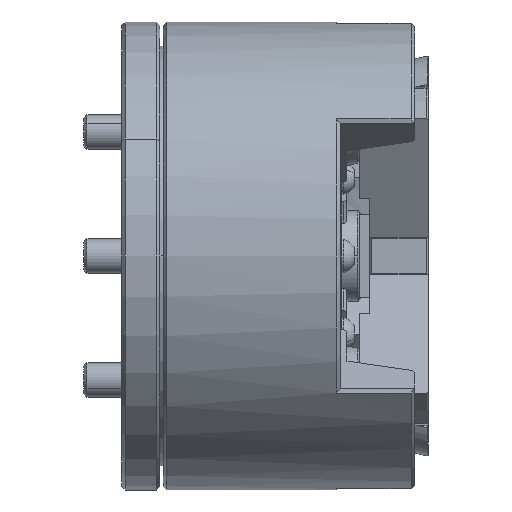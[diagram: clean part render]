
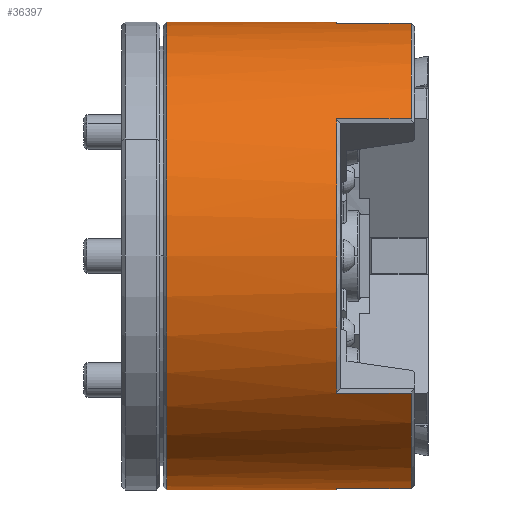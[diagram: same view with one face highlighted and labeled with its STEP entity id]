
A CAD part, front view. The second image highlights one B-rep face of the part: STEP entity #36397.
In plain terms, the highlighted cylindrical face has radius 67.5 mm (diameter 135 mm), a partial arc.
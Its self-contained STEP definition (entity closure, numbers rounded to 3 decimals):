
#98 = ORIENTED_EDGE ( 'NONE', *, *, #31223, .F. ) ;
#139 = CARTESIAN_POINT ( 'NONE',  ( 63.843, 0., -67.5 ) ) ;
#569 = VECTOR ( 'NONE', #21461, 1000. ) ;
#640 = CARTESIAN_POINT ( 'NONE',  ( -26.988, -1.243, -67.489 ) ) ;
#688 = AXIS2_PLACEMENT_3D ( 'NONE', #3417, #18610, #27140 ) ;
#1199 = CARTESIAN_POINT ( 'NONE',  ( -21.693, -0.735, -67.496 ) ) ;
#1232 = CARTESIAN_POINT ( 'NONE',  ( -0.478, -6.871, -67.149 ) ) ;
#1616 = B_SPLINE_CURVE_WITH_KNOTS ( 'NONE', 3,
 ( #15479, #12782, #15115, #640, #18165, #24196, #3361, #12610, #24381, #27639, #9715, #3923, #15670, #4101, #1199, #21456, #33260, #12969 ),
 .UNSPECIFIED., .F., .F.,
 ( 4, 2, 2, 2, 2, 2, 2, 2, 4 ),
 ( 0., 0.002, 0.004, 0.005, 0.006, 0.007, 0.008, 0.008, 0.01 ),
 .UNSPECIFIED. ) ;
#1878 = CIRCLE ( 'NONE', #4968, 67.5 ) ;
#1956 = DIRECTION ( 'NONE',  ( -1., 0., 0. ) ) ;
#2342 = LINE ( 'NONE', #20457, #16566 ) ;
#2450 = CARTESIAN_POINT ( 'NONE',  ( 21., -6.871, -67.149 ) ) ;
#2523 = VERTEX_POINT ( 'NONE', #13466 ) ;
#2741 = DIRECTION ( 'NONE',  ( 1., 0., 0. ) ) ;
#2827 = DIRECTION ( 'NONE',  ( 0., 0., 1. ) ) ;
#2849 = EDGE_CURVE ( 'NONE', #25984, #17626, #33129, .T. ) ;
#2986 = DIRECTION ( 'NONE',  ( 1., 0., 0. ) ) ;
#3297 = CARTESIAN_POINT ( 'NONE',  ( 63.843, 0., -67.5 ) ) ;
#3361 = CARTESIAN_POINT ( 'NONE',  ( -25.405, -1.5, -67.483 ) ) ;
#3417 = CARTESIAN_POINT ( 'NONE',  ( 63.843, 0., 0. ) ) ;
#3923 = CARTESIAN_POINT ( 'NONE',  ( -22.437, -1.051, -67.492 ) ) ;
#4101 = CARTESIAN_POINT ( 'NONE',  ( -21.875, -0.821, -67.495 ) ) ;
#4197 = EDGE_CURVE ( 'NONE', #21991, #22914, #35527, .T. ) ;
#4540 = ORIENTED_EDGE ( 'NONE', *, *, #28244, .T. ) ;
#4661 = CARTESIAN_POINT ( 'NONE',  ( -0.478, 0., 0. ) ) ;
#4968 = AXIS2_PLACEMENT_3D ( 'NONE', #4661, #1956, #30704 ) ;
#5556 = DIRECTION ( 'NONE',  ( 1., 0., 0. ) ) ;
#5770 = AXIS2_PLACEMENT_3D ( 'NONE', #34475, #13425, #10538 ) ;
#5955 = CARTESIAN_POINT ( 'NONE',  ( -20.5, 0., -67.5 ) ) ;
#6090 = VERTEX_POINT ( 'NONE', #24114 ) ;
#6096 = CARTESIAN_POINT ( 'NONE',  ( -0.478, 0., 0. ) ) ;
#6254 = DIRECTION ( 'NONE',  ( 0., 0., -1. ) ) ;
#6814 = LINE ( 'NONE', #36159, #569 ) ;
#7172 = VERTEX_POINT ( 'NONE', #22124 ) ;
#7618 = CIRCLE ( 'NONE', #5770, 67.5 ) ;
#7757 = ORIENTED_EDGE ( 'NONE', *, *, #9903, .T. ) ;
#9433 = CARTESIAN_POINT ( 'NONE',  ( -0.478, 0., -67.5 ) ) ;
#9715 = CARTESIAN_POINT ( 'NONE',  ( -23.011, -1.243, -67.489 ) ) ;
#9879 = CARTESIAN_POINT ( 'NONE',  ( -49.5, 0., 67.5 ) ) ;
#9903 = EDGE_CURVE ( 'NONE', #27060, #22914, #28500, .T. ) ;
#10279 = EDGE_CURVE ( 'NONE', #6090, #7172, #6814, .T. ) ;
#10329 = LINE ( 'NONE', #31158, #14372 ) ;
#10538 = DIRECTION ( 'NONE',  ( 0., 0., -1. ) ) ;
#10893 = CARTESIAN_POINT ( 'NONE',  ( 21., -54.717, -39.525 ) ) ;
#11226 = CARTESIAN_POINT ( 'NONE',  ( 21., 0., 0. ) ) ;
#11449 = CARTESIAN_POINT ( 'NONE',  ( -49.5, 0., -67.5 ) ) ;
#12129 = EDGE_CURVE ( 'NONE', #18566, #19938, #37638, .T. ) ;
#12162 = DIRECTION ( 'NONE',  ( 1., 0., 0. ) ) ;
#12610 = CARTESIAN_POINT ( 'NONE',  ( -24.596, -1.5, -67.483 ) ) ;
#12782 = CARTESIAN_POINT ( 'NONE',  ( -28.85, -0.487, -67.5 ) ) ;
#12969 = CARTESIAN_POINT ( 'NONE',  ( -20.5, 0., -67.5 ) ) ;
#13107 = ORIENTED_EDGE ( 'NONE', *, *, #26328, .T. ) ;
#13425 = DIRECTION ( 'NONE',  ( 1., 0., 0. ) ) ;
#13466 = CARTESIAN_POINT ( 'NONE',  ( 21., -54.717, 39.525 ) ) ;
#14372 = VECTOR ( 'NONE', #16864, 1000. ) ;
#14614 = EDGE_CURVE ( 'NONE', #19345, #19404, #29721, .T. ) ;
#14804 = LINE ( 'NONE', #27152, #37719 ) ;
#15115 = CARTESIAN_POINT ( 'NONE',  ( -28.141, -0.859, -67.495 ) ) ;
#15479 = CARTESIAN_POINT ( 'NONE',  ( -29.5, 0., -67.5 ) ) ;
#15670 = CARTESIAN_POINT ( 'NONE',  ( -22.247, -0.979, -67.493 ) ) ;
#15829 = CARTESIAN_POINT ( 'NONE',  ( -29.5, 0., -67.5 ) ) ;
#16566 = VECTOR ( 'NONE', #22605, 1000. ) ;
#16864 = DIRECTION ( 'NONE',  ( 1., 0., 0. ) ) ;
#16947 = VERTEX_POINT ( 'NONE', #25201 ) ;
#17027 = EDGE_CURVE ( 'NONE', #30000, #25984, #7618, .T. ) ;
#17483 = DIRECTION ( 'NONE',  ( 1., 0., 0. ) ) ;
#17626 = VERTEX_POINT ( 'NONE', #15829 ) ;
#17644 = DIRECTION ( 'NONE',  ( 0., 0., 1. ) ) ;
#17834 = ORIENTED_EDGE ( 'NONE', *, *, #14614, .T. ) ;
#18165 = CARTESIAN_POINT ( 'NONE',  ( -26.595, -1.339, -67.487 ) ) ;
#18566 = VERTEX_POINT ( 'NONE', #18722 ) ;
#18610 = DIRECTION ( 'NONE',  ( 1., 0., 0. ) ) ;
#18709 = ORIENTED_EDGE ( 'NONE', *, *, #23508, .T. ) ;
#18722 = CARTESIAN_POINT ( 'NONE',  ( -0.478, -54.717, -39.525 ) ) ;
#19102 = ORIENTED_EDGE ( 'NONE', *, *, #12129, .T. ) ;
#19345 = VERTEX_POINT ( 'NONE', #5955 ) ;
#19404 = VERTEX_POINT ( 'NONE', #9433 ) ;
#19938 = VERTEX_POINT ( 'NONE', #25098 ) ;
#19974 = DIRECTION ( 'NONE',  ( -1., 0., 0. ) ) ;
#20161 = CARTESIAN_POINT ( 'NONE',  ( -0.478, 0., 0. ) ) ;
#20457 = CARTESIAN_POINT ( 'NONE',  ( 63.843, -54.717, 39.525 ) ) ;
#21304 = AXIS2_PLACEMENT_3D ( 'NONE', #26906, #2986, #6254 ) ;
#21347 = DIRECTION ( 'NONE',  ( -1., 0., 0. ) ) ;
#21357 = EDGE_CURVE ( 'NONE', #21991, #18566, #14804, .T. ) ;
#21456 = CARTESIAN_POINT ( 'NONE',  ( -21.161, -0.455, -67.499 ) ) ;
#21461 = DIRECTION ( 'NONE',  ( -1., 0., 0. ) ) ;
#21991 = VERTEX_POINT ( 'NONE', #10893 ) ;
#22124 = CARTESIAN_POINT ( 'NONE',  ( -0.478, -6.871, 67.149 ) ) ;
#22214 = ORIENTED_EDGE ( 'NONE', *, *, #10279, .T. ) ;
#22605 = DIRECTION ( 'NONE',  ( 1., 0., 0. ) ) ;
#22914 = VERTEX_POINT ( 'NONE', #2450 ) ;
#23159 = EDGE_CURVE ( 'NONE', #30000, #16947, #10329, .T. ) ;
#23431 = AXIS2_PLACEMENT_3D ( 'NONE', #6096, #32933, #17644 ) ;
#23508 = EDGE_CURVE ( 'NONE', #17626, #19345, #1616, .T. ) ;
#24080 = ORIENTED_EDGE ( 'NONE', *, *, #21357, .T. ) ;
#24114 = CARTESIAN_POINT ( 'NONE',  ( 21., -6.871, 67.149 ) ) ;
#24196 = CARTESIAN_POINT ( 'NONE',  ( -25.804, -1.467, -67.484 ) ) ;
#24381 = CARTESIAN_POINT ( 'NONE',  ( -24.191, -1.467, -67.484 ) ) ;
#24434 = EDGE_LOOP ( 'NONE', ( #36808, #31788, #38071, #18709, #17834, #4540, #7757, #36374, #24080, #19102, #13107, #98, #22214, #33121 ) ) ;
#24439 = FACE_OUTER_BOUND ( 'NONE', #24434, .T. ) ;
#25098 = CARTESIAN_POINT ( 'NONE',  ( -0.478, -54.717, 39.525 ) ) ;
#25201 = CARTESIAN_POINT ( 'NONE',  ( -0.478, 0., 67.5 ) ) ;
#25984 = VERTEX_POINT ( 'NONE', #11449 ) ;
#26328 = EDGE_CURVE ( 'NONE', #19938, #2523, #2342, .T. ) ;
#26696 = AXIS2_PLACEMENT_3D ( 'NONE', #11226, #2741, #35156 ) ;
#26906 = CARTESIAN_POINT ( 'NONE',  ( 21., 0., 0. ) ) ;
#27060 = VERTEX_POINT ( 'NONE', #1232 ) ;
#27140 = DIRECTION ( 'NONE',  ( 0., 0., -1. ) ) ;
#27152 = CARTESIAN_POINT ( 'NONE',  ( 63.843, -54.717, -39.525 ) ) ;
#27639 = CARTESIAN_POINT ( 'NONE',  ( -23.4, -1.338, -67.487 ) ) ;
#28244 = EDGE_CURVE ( 'NONE', #19404, #27060, #1878, .T. ) ;
#28500 = LINE ( 'NONE', #29076, #30114 ) ;
#29076 = CARTESIAN_POINT ( 'NONE',  ( 63.843, -6.871, -67.149 ) ) ;
#29079 = VECTOR ( 'NONE', #12162, 1000. ) ;
#29721 = LINE ( 'NONE', #3297, #29079 ) ;
#30000 = VERTEX_POINT ( 'NONE', #9879 ) ;
#30114 = VECTOR ( 'NONE', #5556, 1000. ) ;
#30391 = AXIS2_PLACEMENT_3D ( 'NONE', #20161, #19974, #2827 ) ;
#30704 = DIRECTION ( 'NONE',  ( 0., 0., 1. ) ) ;
#31158 = CARTESIAN_POINT ( 'NONE',  ( 63.843, 0., 67.5 ) ) ;
#31223 = EDGE_CURVE ( 'NONE', #6090, #2523, #37770, .T. ) ;
#31788 = ORIENTED_EDGE ( 'NONE', *, *, #17027, .T. ) ;
#32031 = EDGE_CURVE ( 'NONE', #7172, #16947, #35870, .T. ) ;
#32933 = DIRECTION ( 'NONE',  ( -1., 0., 0. ) ) ;
#33121 = ORIENTED_EDGE ( 'NONE', *, *, #32031, .T. ) ;
#33129 = LINE ( 'NONE', #139, #36678 ) ;
#33260 = CARTESIAN_POINT ( 'NONE',  ( -20.822, -0.242, -67.5 ) ) ;
#33518 = CYLINDRICAL_SURFACE ( 'NONE', #688, 67.5 ) ;
#34475 = CARTESIAN_POINT ( 'NONE',  ( -49.5, 0., 0. ) ) ;
#35156 = DIRECTION ( 'NONE',  ( 0., 0., -1. ) ) ;
#35527 = CIRCLE ( 'NONE', #21304, 67.5 ) ;
#35870 = CIRCLE ( 'NONE', #30391, 67.5 ) ;
#36159 = CARTESIAN_POINT ( 'NONE',  ( 63.843, -6.871, 67.149 ) ) ;
#36374 = ORIENTED_EDGE ( 'NONE', *, *, #4197, .F. ) ;
#36397 = ADVANCED_FACE ( 'NONE', ( #24439 ), #33518, .T. ) ;
#36678 = VECTOR ( 'NONE', #17483, 1000. ) ;
#36808 = ORIENTED_EDGE ( 'NONE', *, *, #23159, .F. ) ;
#37638 = CIRCLE ( 'NONE', #23431, 67.5 ) ;
#37719 = VECTOR ( 'NONE', #21347, 1000. ) ;
#37770 = CIRCLE ( 'NONE', #26696, 67.5 ) ;
#38071 = ORIENTED_EDGE ( 'NONE', *, *, #2849, .T. ) ;
